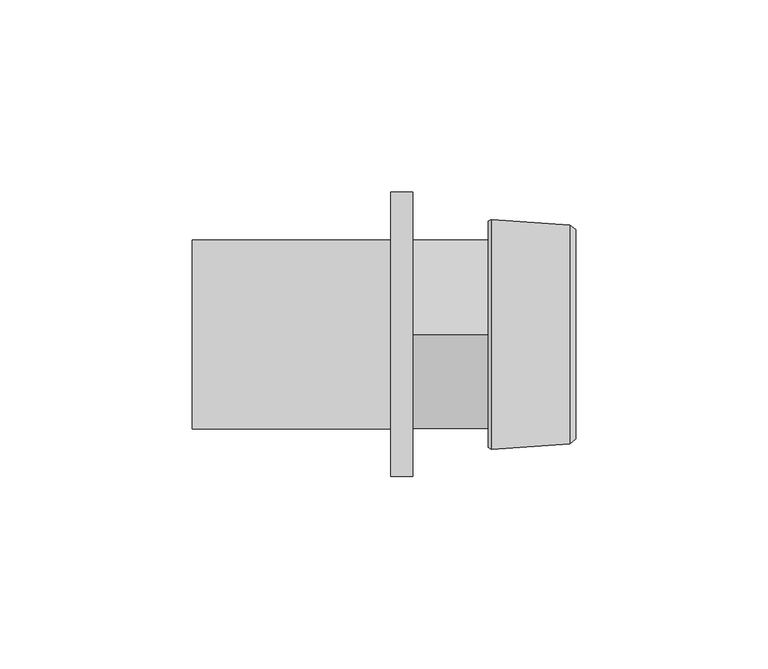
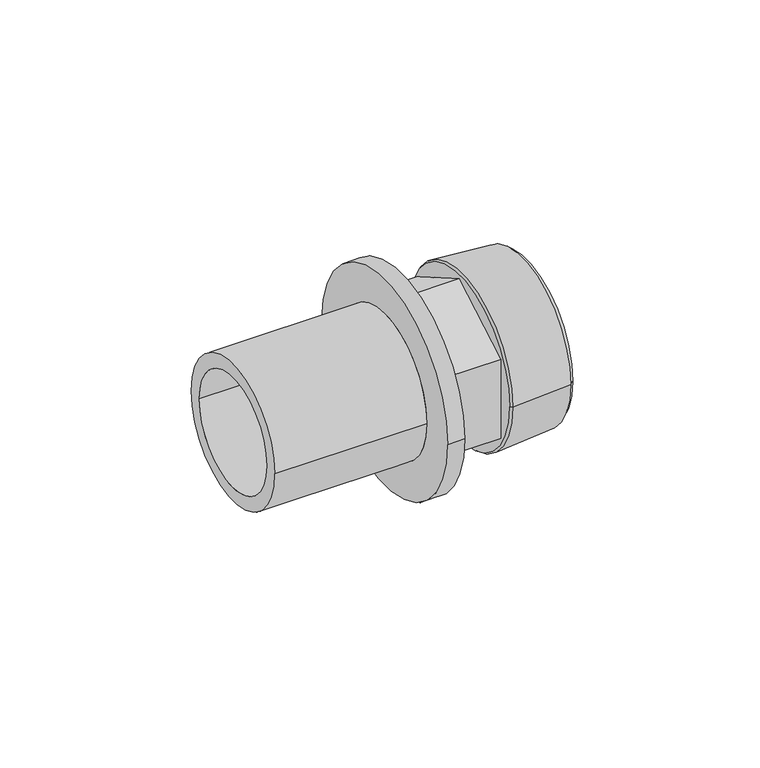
"""IFC4 building model written with IfcOpenShell, lengths in millimetres: pipe fitting geometry, REHAU_RAUTITAN_Adaptor_RX+, with external thread : REHAU_RAUTITAN_Adaptor_RX+, with external thread."""

from ifc_helpers import new_model, si_unit, point, frame, origin, origin_2d, place, context, project, spatial, polyline, circle_curve, trimmed, segment, composite_curve, outline, extrude, source, transform, mapped, element, save
from ifc_brep_helpers import plane_surface, cylinder_surface, revolved_surface, advanced_brep


def pipe_fitting_f9c75b4c(model_context):
    return source(origin(), model_context, "Body", "SolidModel", [
        advanced_brep(
        [(20.7832803, 24.75, 0.0), (20.7832803, -24.75, 0.0), (42.38, -24.75, 0.0), (42.38, 24.75, 0.0), (19.68, 23.6467197, 0.0), (19.68, -23.6467197, 0.0), (20.4206902, 29.93, 0.0), (20.4206902, -29.93, 0.0), (19.68, -29.415, 0.0), (19.68, 29.415, 0.0), (40.8800007, 28.485, 0.0), (40.8800007, -28.485, 0.0), (42.38, 27.245, 0.0), (42.38, -27.245, 0.0)],
        [
            (0, 1, circle_curve(frame((20.7832803, 0.0, 0.0), z_axis=(-1.0, 0.0, 0.0), x_axis=(0.0, -1.0, 0.0)), 24.75)),
            (1, 2),
            (2, 3, circle_curve(frame((42.38, 0.0, 0.0), z_axis=(1.0, 0.0, 0.0), x_axis=(0.0, -1.0, 0.0)), 24.75)),
            (3, 0),
            (4, 5, circle_curve(frame((19.68, 0.0, 0.0), z_axis=(-1.0, 0.0, 0.0), x_axis=(0.0, -1.0, 0.0)), 23.6467197)),
            (5, 1),
            (0, 4),
            (6, 7, circle_curve(frame((20.4206902, 0.0, 0.0), z_axis=(-1.0, 0.0, 0.0), x_axis=(0.0, -1.0, 0.0)), 29.93)),
            (7, 8),
            (8, 9, circle_curve(frame((19.68, 0.0, 0.0), z_axis=(1.0, 0.0, 0.0), x_axis=(0.0, -1.0, 0.0)), 29.415)),
            (9, 6),
            (10, 11, circle_curve(frame((40.8800007, 0.0, 0.0), z_axis=(-1.0, 0.0, 0.0), x_axis=(0.0, -1.0, 0.0)), 28.485)),
            (11, 7),
            (6, 10),
            (12, 13, circle_curve(frame((42.38, 0.0, 0.0), z_axis=(-1.0, 0.0, 0.0), x_axis=(0.0, -1.0, 0.0)), 27.245)),
            (13, 11),
            (10, 12),
            (1, 0, circle_curve(frame((20.7832803, 0.0, 0.0), z_axis=(-1.0, 0.0, 0.0), x_axis=(0.0, 1.0, 0.0)), 24.75)),
            (3, 2, circle_curve(frame((42.38, 0.0, 0.0), z_axis=(1.0, 0.0, 0.0), x_axis=(0.0, 1.0, 0.0)), 24.75)),
            (5, 4, circle_curve(frame((19.68, 0.0, 0.0), z_axis=(-1.0, 0.0, 0.0), x_axis=(0.0, 1.0, 0.0)), 23.6467197)),
            (8, 9, circle_curve(frame((19.68, 0.0, 0.0), z_axis=(-1.0, 0.0, 0.0), x_axis=(0.0, 1.0, 0.0)), 29.415)),
            (7, 6, circle_curve(frame((20.4206902, 0.0, 0.0), z_axis=(-1.0, 0.0, 0.0), x_axis=(0.0, 1.0, 0.0)), 29.93)),
            (11, 10, circle_curve(frame((40.8800007, 0.0, 0.0), z_axis=(-1.0, 0.0, 0.0), x_axis=(0.0, 1.0, 0.0)), 28.485)),
            (13, 12, circle_curve(frame((42.38, 0.0, 0.0), z_axis=(-1.0, 0.0, 0.0), x_axis=(0.0, 1.0, 0.0)), 27.245)),
        ],
        [
            revolved_surface(polyline([(42.38, -24.75, 0.0), (20.7832803, -24.75, 0.0)]), (0.0, 0.0, 0.0), (1.0, 0.0, 0.0)),
            revolved_surface(polyline([(20.7832803, -24.75, 0.0), (19.68, -23.6467197, 0.0)]), (0.0, 0.0, 0.0), (1.0, 0.0, 0.0)),
            revolved_surface(polyline([(19.68, -29.415, 0.0), (20.4206902, -29.93, 0.0)]), (0.0, 0.0, 0.0), (1.0, 0.0, 0.0)),
            revolved_surface(polyline([(20.4206902, -29.93, 0.0), (40.8800007, -28.485, 0.0)]), (0.0, 0.0, 0.0), (1.0, 0.0, 0.0)),
            revolved_surface(polyline([(40.8800007, -28.485, 0.0), (42.38, -27.245, 0.0)]), (0.0, 0.0, 0.0), (1.0, 0.0, 0.0)),
            revolved_surface(polyline([(42.38, 24.75, 0.0), (20.7832803, 24.75, 0.0)]), (0.0, 0.0, 0.0), (1.0, 0.0, 0.0)),
            revolved_surface(polyline([(20.7832803, 24.75, 0.0), (19.68, 23.6467197, 0.0)]), (0.0, 0.0, 0.0), (1.0, 0.0, 0.0)),
            plane_surface(frame((19.68, 0.0, 0.0), z_axis=(-1.0, 0.0, 0.0), x_axis=(0.0, 1.0, 0.0))),
            revolved_surface(polyline([(19.68, 29.415, 0.0), (20.4206902, 29.93, 0.0)]), (0.0, 0.0, 0.0), (1.0, 0.0, 0.0)),
            revolved_surface(polyline([(20.4206902, 29.93, 0.0), (40.8800007, 28.485, 0.0)]), (0.0, 0.0, 0.0), (1.0, 0.0, 0.0)),
            revolved_surface(polyline([(40.8800007, 28.485, 0.0), (42.38, 27.245, 0.0)]), (0.0, 0.0, 0.0), (1.0, 0.0, 0.0)),
            plane_surface(frame((42.38, 0.0, 0.0), z_axis=(1.0, 0.0, 0.0), x_axis=(0.0, 1.0, 0.0))),
        ],
        [
            (0, [[1, 2, 3, 4]]),
            (1, [[5, 6, -1, 7]]),
            (2, [[8, 9, 10, 11]]),
            (3, [[12, 13, -8, 14]]),
            (4, [[15, 16, -12, 17]]),
            (5, [[18, -4, 19, -2]]),
            (6, [[20, -7, -18, -6]]),
            (7, [[21, -10], [-20, -5]]),
            (8, [[22, -11, -21, -9]]),
            (9, [[23, -14, -22, -13]]),
            (10, [[24, -17, -23, -16]]),
            (11, [[-24, -15], [-19, -3]]),
        ],
    ),
        extrude(outline(polyline([(0.0, -28.2901632), (-24.5, -14.1450816), (-24.5, 14.1450816), (0.0, 28.2901632), (24.5, 14.1450816), (24.5, -14.1450816), (0.0, -28.2901632)]), holes=[composite_curve([segment(trimmed(circle_curve(origin_2d(), 19.75), [point((-19.75, 0.0))], [point((19.75, 0.0))], True, "CARTESIAN"), True, "CONTINUOUS"), segment(trimmed(circle_curve(origin_2d(), 19.75), [point((19.75, 0.0))], [point((-19.75, 0.0))], True, "CARTESIAN"), True, "CONTINUOUS")], self_intersect=False)]), frame((0.0, 0.0, 0.0), z_axis=(1.0, 0.0, 0.0), x_axis=(0.0, 1.0, 0.0)), (0.0, 0.0, 1.0), 19.68),
        advanced_brep(
        [(-57.32, 19.75, 0.0), (-57.32, -19.75, 0.0), (0.0, -19.75, 0.0), (0.0, 19.75, 0.0), (-5.77, 24.6, 0.0), (-5.77, -24.6, 0.0), (-57.32, -24.6, 0.0), (-57.32, 24.6, 0.0), (0.0, 37.0, 0.0), (0.0, -37.0, 0.0), (-5.77, -37.0, 0.0), (-5.77, 37.0, 0.0)],
        [
            (0, 1, circle_curve(frame((-57.32, 0.0, 0.0), z_axis=(-1.0, 0.0, 0.0), x_axis=(0.0, -1.0, 0.0)), 19.75)),
            (1, 2),
            (2, 3, circle_curve(frame((0.0, 0.0, 0.0), z_axis=(1.0, 0.0, 0.0), x_axis=(0.0, -1.0, 0.0)), 19.75)),
            (3, 0),
            (4, 5, circle_curve(frame((-5.77, 0.0, 0.0), z_axis=(-1.0, 0.0, 0.0), x_axis=(0.0, -1.0, 0.0)), 24.6)),
            (5, 6),
            (6, 7, circle_curve(frame((-57.32, 0.0, 0.0), z_axis=(1.0, 0.0, 0.0), x_axis=(0.0, -1.0, 0.0)), 24.6)),
            (7, 4),
            (8, 9, circle_curve(frame((0.0, 0.0, 0.0), z_axis=(-1.0, 0.0, 0.0), x_axis=(0.0, -1.0, 0.0)), 37.0)),
            (9, 10),
            (10, 11, circle_curve(frame((-5.77, 0.0, 0.0), z_axis=(1.0, 0.0, 0.0), x_axis=(0.0, -1.0, 0.0)), 37.0)),
            (11, 8),
            (8, 9, circle_curve(frame((0.0, 0.0, 0.0), z_axis=(1.0, 0.0, 0.0), x_axis=(0.0, 1.0, 0.0)), 37.0)),
            (2, 3, circle_curve(frame((0.0, 0.0, 0.0), z_axis=(-1.0, 0.0, 0.0), x_axis=(0.0, 1.0, 0.0)), 19.75)),
            (1, 0, circle_curve(frame((-57.32, 0.0, 0.0), z_axis=(-1.0, 0.0, 0.0), x_axis=(0.0, 1.0, 0.0)), 19.75)),
            (6, 7, circle_curve(frame((-57.32, 0.0, 0.0), z_axis=(-1.0, 0.0, 0.0), x_axis=(0.0, 1.0, 0.0)), 24.6)),
            (5, 4, circle_curve(frame((-5.77, 0.0, 0.0), z_axis=(-1.0, 0.0, 0.0), x_axis=(0.0, 1.0, 0.0)), 24.6)),
            (10, 11, circle_curve(frame((-5.77, 0.0, 0.0), z_axis=(-1.0, 0.0, 0.0), x_axis=(0.0, 1.0, 0.0)), 37.0)),
        ],
        [
            revolved_surface(polyline([(0.0, -19.75, 0.0), (-57.32, -19.75, 0.0)]), (0.0, 0.0, 0.0), (1.0, 0.0, 0.0)),
            cylinder_surface(frame((0.0, 0.0, 0.0), z_axis=(1.0, 0.0, 0.0), x_axis=(0.0, -1.0, 0.0)), 24.6),
            cylinder_surface(frame((0.0, 0.0, 0.0), z_axis=(1.0, 0.0, 0.0), x_axis=(0.0, -1.0, 0.0)), 37.0),
            plane_surface(frame((0.0, 0.0, 0.0), z_axis=(1.0, 0.0, 0.0), x_axis=(0.0, 1.0, 0.0))),
            revolved_surface(polyline([(0.0, 19.75, 0.0), (-57.32, 19.75, 0.0)]), (0.0, 0.0, 0.0), (1.0, 0.0, 0.0)),
            plane_surface(frame((-57.32, 0.0, 0.0), z_axis=(-1.0, 0.0, 0.0), x_axis=(0.0, 1.0, 0.0))),
            cylinder_surface(frame((0.0, 0.0, 0.0), z_axis=(1.0, 0.0, 0.0), x_axis=(0.0, 1.0, 0.0)), 24.6),
            plane_surface(frame((-5.77, 0.0, 0.0), z_axis=(-1.0, 0.0, 0.0), x_axis=(0.0, 1.0, 0.0))),
            cylinder_surface(frame((0.0, 0.0, 0.0), z_axis=(1.0, 0.0, 0.0), x_axis=(0.0, 1.0, 0.0)), 37.0),
        ],
        [
            (0, [[1, 2, 3, 4]]),
            (1, [[5, 6, 7, 8]]),
            (2, [[9, 10, 11, 12]]),
            (3, [[13, -9], [14, -3]]),
            (4, [[15, -4, -14, -2]]),
            (5, [[16, -7], [-15, -1]]),
            (6, [[17, -8, -16, -6]]),
            (7, [[18, -11], [-17, -5]]),
            (8, [[-13, -12, -18, -10]]),
        ],
    ),
    ])


if __name__ == "__main__":
    model = new_model("IFC4")
    model_context = context("Model", 3, world=origin())
    ifc_project = project(units=[si_unit("LENGTHUNIT", "METRE", prefix="MILLI")], contexts=[model_context])
    site = spatial("IfcSite", under=ifc_project)
    building = spatial("IfcBuilding", under=site)
    placement = place(None, origin())
    pipe_fitting_shape = pipe_fitting_f9c75b4c(model_context)
    element("IfcPipeFitting", 1, ObjectType="REHAU_RAUTITAN_Adaptor_RX+, with external thread : REHAU_RAUTITAN_Adaptor_RX+, with external thread", at=placement, inside=building, context=model_context, shape_type="MappedRepresentation", body=[
        mapped(pipe_fitting_shape, transform((0.0, 0.0, 0.0), x_axis=(1.0, 0.0, 0.0), y_axis=(0.0, 1.0, 0.0), z_axis=(0.0, 0.0, 1.0))),
    ])
    save(model, "model.ifc")
